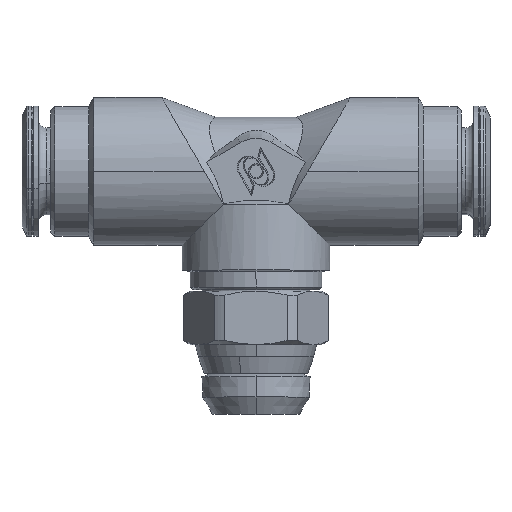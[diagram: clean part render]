
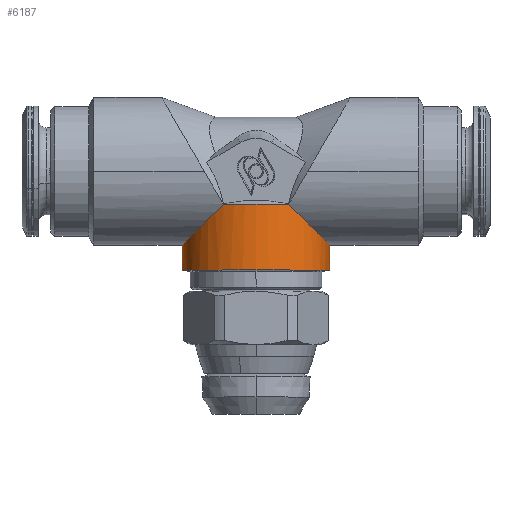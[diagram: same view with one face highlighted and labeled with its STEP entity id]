
A CAD part, top view. The second image highlights one B-rep face of the part: STEP entity #6187.
In plain terms, the highlighted cylindrical face has radius 9 mm (diameter 18 mm), a partial arc.
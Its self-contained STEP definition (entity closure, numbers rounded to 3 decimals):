
#403 = CARTESIAN_POINT ( 'NONE',  ( -9., -12.024, 0. ) ) ;
#438 = CARTESIAN_POINT ( 'NONE',  ( 9., -3.996, 0. ) ) ;
#524 = CYLINDRICAL_SURFACE ( 'NONE', #3092, 9. ) ;
#638 = EDGE_CURVE ( 'NONE', #3871, #1031, #6098, .T. ) ;
#727 = EDGE_CURVE ( 'NONE', #5675, #9645, #2819, .T. ) ;
#921 = CARTESIAN_POINT ( 'NONE',  ( -3.996, -3.996, 8.064 ) ) ;
#1031 = VERTEX_POINT ( 'NONE', #2214 ) ;
#1150 = CARTESIAN_POINT ( 'NONE',  ( 3.996, -3.996, 8.064 ) ) ;
#1162 = DIRECTION ( 'NONE',  ( 0., 1., 0. ) ) ;
#1252 = CIRCLE ( 'NONE', #4874, 9. ) ;
#1286 = VECTOR ( 'NONE', #6091, 1000. ) ;
#1480 = DIRECTION ( 'NONE',  ( 0., 0., 1. ) ) ;
#1566 = EDGE_CURVE ( 'NONE', #6427, #1031, #7449, .T. ) ;
#1587 = AXIS2_PLACEMENT_3D ( 'NONE', #6030, #2054, #3589 ) ;
#1608 = VECTOR ( 'NONE', #9124, 1000. ) ;
#1733 = CARTESIAN_POINT ( 'NONE',  ( -9., -9., 3.516 ) ) ;
#1908 = CARTESIAN_POINT ( 'NONE',  ( 7.146, -7.146, 6.503 ) ) ;
#2038 = LINE ( 'NONE', #438, #1286 ) ;
#2054 = DIRECTION ( 'NONE',  ( 0., -1., 0. ) ) ;
#2113 = LINE ( 'NONE', #3543, #1608 ) ;
#2214 = CARTESIAN_POINT ( 'NONE',  ( 3.996, -3.996, 8.064 ) ) ;
#2502 = FACE_OUTER_BOUND ( 'NONE', #10164, .T. ) ;
#2721 = ORIENTED_EDGE ( 'NONE', *, *, #2830, .F. ) ;
#2819 = CIRCLE ( 'NONE', #1587, 9. ) ;
#2830 = EDGE_CURVE ( 'NONE', #4372, #5675, #1252, .T. ) ;
#3092 = AXIS2_PLACEMENT_3D ( 'NONE', #5391, #9334, #4667 ) ;
#3543 = CARTESIAN_POINT ( 'NONE',  ( -9., -3.996, 0. ) ) ;
#3589 = DIRECTION ( 'NONE',  ( 0., 0., 1. ) ) ;
#3871 = VERTEX_POINT ( 'NONE', #4596 ) ;
#4372 = VERTEX_POINT ( 'NONE', #7588 ) ;
#4596 = CARTESIAN_POINT ( 'NONE',  ( 9., -9., 0. ) ) ;
#4667 = DIRECTION ( 'NONE',  ( -1., 0., 0. ) ) ;
#4756 = VERTEX_POINT ( 'NONE', #9150 ) ;
#4874 = AXIS2_PLACEMENT_3D ( 'NONE', #5475, #6312, #1480 ) ;
#5151 = DIRECTION ( 'NONE',  ( -1., 0., 0. ) ) ;
#5239 = ORIENTED_EDGE ( 'NONE', *, *, #1566, .F. ) ;
#5391 = CARTESIAN_POINT ( 'NONE',  ( 0., -3.996, 0. ) ) ;
#5475 = CARTESIAN_POINT ( 'NONE',  ( 0., -12.024, 0. ) ) ;
#5477 =( BOUNDED_CURVE ( )  B_SPLINE_CURVE ( 3, ( #7891, #1733, #8694, #921 ),
 .UNSPECIFIED., .F., .F. ) 
 B_SPLINE_CURVE_WITH_KNOTS ( ( 4, 4 ),
 ( 3.142, 4.252 ),
 .UNSPECIFIED. ) 
 CURVE ( )  GEOMETRIC_REPRESENTATION_ITEM ( )  RATIONAL_B_SPLINE_CURVE ( ( 1., 0.9, 0.9, 1. ) ) 
 REPRESENTATION_ITEM ( '' )  );
#5504 = ORIENTED_EDGE ( 'NONE', *, *, #9804, .T. ) ;
#5675 = VERTEX_POINT ( 'NONE', #7329 ) ;
#5701 = EDGE_CURVE ( 'NONE', #9645, #4756, #2113, .T. ) ;
#6030 = CARTESIAN_POINT ( 'NONE',  ( 0., -12.024, 0. ) ) ;
#6091 = DIRECTION ( 'NONE',  ( 0., 1., 0. ) ) ;
#6098 =( BOUNDED_CURVE ( )  B_SPLINE_CURVE ( 3, ( #9039, #7368, #1908, #1150 ),
 .UNSPECIFIED., .F., .F. ) 
 B_SPLINE_CURVE_WITH_KNOTS ( ( 4, 4 ),
 ( 3.142, 4.252 ),
 .UNSPECIFIED. ) 
 CURVE ( )  GEOMETRIC_REPRESENTATION_ITEM ( )  RATIONAL_B_SPLINE_CURVE ( ( 1., 0.9, 0.9, 1. ) ) 
 REPRESENTATION_ITEM ( '' )  );
#6187 = ADVANCED_FACE ( 'NONE', ( #2502 ), #524, .T. ) ;
#6312 = DIRECTION ( 'NONE',  ( 0., -1., 0. ) ) ;
#6427 = VERTEX_POINT ( 'NONE', #6864 ) ;
#6589 = ORIENTED_EDGE ( 'NONE', *, *, #638, .T. ) ;
#6864 = CARTESIAN_POINT ( 'NONE',  ( -3.996, -3.996, 8.064 ) ) ;
#7329 = CARTESIAN_POINT ( 'NONE',  ( 0., -12.024, 9. ) ) ;
#7351 = EDGE_CURVE ( 'NONE', #4756, #6427, #5477, .T. ) ;
#7368 = CARTESIAN_POINT ( 'NONE',  ( 9., -9., 3.516 ) ) ;
#7449 = CIRCLE ( 'NONE', #8725, 9. ) ;
#7588 = CARTESIAN_POINT ( 'NONE',  ( 9., -12.024, 0. ) ) ;
#7783 = ORIENTED_EDGE ( 'NONE', *, *, #7351, .F. ) ;
#7891 = CARTESIAN_POINT ( 'NONE',  ( -9., -9., 0. ) ) ;
#8232 = CARTESIAN_POINT ( 'NONE',  ( 0., -3.996, 0. ) ) ;
#8339 = ORIENTED_EDGE ( 'NONE', *, *, #727, .F. ) ;
#8418 = ORIENTED_EDGE ( 'NONE', *, *, #5701, .F. ) ;
#8694 = CARTESIAN_POINT ( 'NONE',  ( -7.146, -7.146, 6.503 ) ) ;
#8725 = AXIS2_PLACEMENT_3D ( 'NONE', #8232, #1162, #5151 ) ;
#9039 = CARTESIAN_POINT ( 'NONE',  ( 9., -9., 0. ) ) ;
#9124 = DIRECTION ( 'NONE',  ( 0., 1., 0. ) ) ;
#9150 = CARTESIAN_POINT ( 'NONE',  ( -9., -9., 0. ) ) ;
#9334 = DIRECTION ( 'NONE',  ( 0., 1., 0. ) ) ;
#9645 = VERTEX_POINT ( 'NONE', #403 ) ;
#9804 = EDGE_CURVE ( 'NONE', #4372, #3871, #2038, .T. ) ;
#10164 = EDGE_LOOP ( 'NONE', ( #2721, #5504, #6589, #5239, #7783, #8418, #8339 ) ) ;
